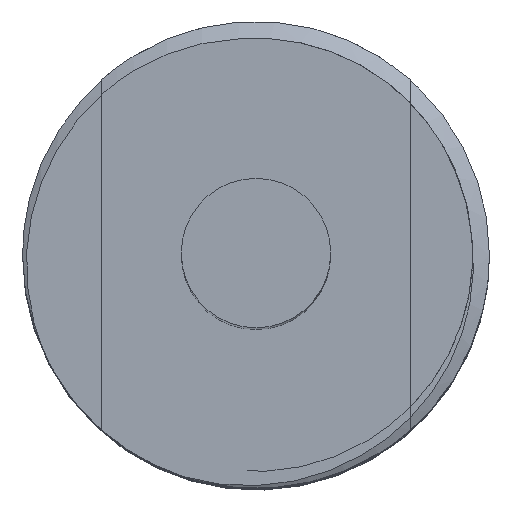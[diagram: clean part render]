
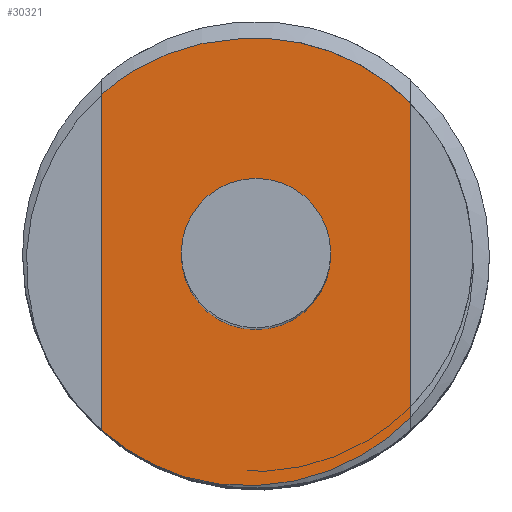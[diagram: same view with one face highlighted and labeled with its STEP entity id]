
A CAD part, top view. The second image highlights one B-rep face of the part: STEP entity #30321.
In plain terms, the highlighted planar face has unit normal (0, 0, 1).
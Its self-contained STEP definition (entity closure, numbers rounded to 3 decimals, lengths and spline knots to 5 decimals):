
#13092 = CARTESIAN_POINT ( 'NONE',  ( 0.075, 0., 1.1 ) ) ;
#22721 = CARTESIAN_POINT ( 'NONE',  ( -0.01772, 0.21674, 1.1 ) ) ;
#22722 = CARTESIAN_POINT ( 'NONE',  ( -0.155, 0.16088, 1.1 ) ) ;
#22736 = CARTESIAN_POINT ( 'NONE',  ( -0.155, -0.1758, 1.1 ) ) ;
#22798 = CARTESIAN_POINT ( 'NONE',  ( 0.155, -0.16325, 1.1 ) ) ;
#22928 = CARTESIAN_POINT ( 'NONE',  ( -0.155, 0.16088, 1.1 ) ) ;
#22929 = CARTESIAN_POINT ( 'NONE',  ( -0.14556, 0.16933, 1.1 ) ) ;
#22930 = CARTESIAN_POINT ( 'NONE',  ( -0.13542, 0.17693, 1.1 ) ) ;
#22931 = CARTESIAN_POINT ( 'NONE',  ( -0.11396, 0.19031, 1.1 ) ) ;
#22932 = CARTESIAN_POINT ( 'NONE',  ( -0.1028, 0.196, 1.1 ) ) ;
#22933 = CARTESIAN_POINT ( 'NONE',  ( -0.07965, 0.20542, 1.1 ) ) ;
#22934 = CARTESIAN_POINT ( 'NONE',  ( -0.06762, 0.20917, 1.1 ) ) ;
#22935 = CARTESIAN_POINT ( 'NONE',  ( -0.04289, 0.21457, 1.1 ) ) ;
#22936 = CARTESIAN_POINT ( 'NONE',  ( -0.03038, 0.21619, 1.1 ) ) ;
#22937 = CARTESIAN_POINT ( 'NONE',  ( -0.01772, 0.21674, 1.1 ) ) ;
#22939 = B_SPLINE_CURVE_WITH_KNOTS ( 'NONE', 3,
 ( #22937, #22936, #22935, #22934, #22933, #22932, #22931, #22930, #22929, #22928 ),
 .UNSPECIFIED., .F., .F.,
 ( 4, 2, 2, 2, 4 ),
 ( 0., 0.00096, 0.00192, 0.00288, 0.00385 ),
 .UNSPECIFIED. ) ;
#23107 = CARTESIAN_POINT ( 'NONE',  ( -0.075, 0., 1.1 ) ) ;
#23108 = DIRECTION ( 'NONE',  ( -1., 0., 0. ) ) ;
#23109 = DIRECTION ( 'NONE',  ( 0., 0., 1. ) ) ;
#23110 = CARTESIAN_POINT ( 'NONE',  ( 0., 0., 1.1 ) ) ;
#23111 = AXIS2_PLACEMENT_3D ( 'NONE', #23110, #23109, #23108 ) ;
#23112 = CIRCLE ( 'NONE', #23111, 0.075 ) ;
#24420 = CARTESIAN_POINT ( 'NONE',  ( -0.07286, -0.22276, 1.1 ) ) ;
#24421 = CARTESIAN_POINT ( 'NONE',  ( 0.155, 0.15253, 1.1 ) ) ;
#24423 = DIRECTION ( 'NONE',  ( -1., 0., 0. ) ) ;
#24424 = DIRECTION ( 'NONE',  ( 0., 0., -1. ) ) ;
#24425 = CARTESIAN_POINT ( 'NONE',  ( 0., 0., 1.1 ) ) ;
#24426 = AXIS2_PLACEMENT_3D ( 'NONE', #24425, #24424, #24423 ) ;
#24427 = CIRCLE ( 'NONE', #24426, 0.23438 ) ;
#24446 = CARTESIAN_POINT ( 'NONE',  ( -0.155, -0.24405, 1.1 ) ) ;
#24447 = PLANE ( 'NONE',  #24506 ) ;
#24448 = FACE_BOUND ( 'NONE', #30306, .T. ) ;
#24449 = FACE_OUTER_BOUND ( 'NONE', #30303, .T. ) ;
#24450 = DIRECTION ( 'NONE',  ( -1., 0., 0. ) ) ;
#24451 = DIRECTION ( 'NONE',  ( 0., 0., 1. ) ) ;
#24452 = CARTESIAN_POINT ( 'NONE',  ( 0., 0., 1.1 ) ) ;
#24453 = AXIS2_PLACEMENT_3D ( 'NONE', #24452, #24451, #24450 ) ;
#24454 = CIRCLE ( 'NONE', #24453, 0.075 ) ;
#24461 = DIRECTION ( 'NONE',  ( 0., 1., 0. ) ) ;
#24462 = CARTESIAN_POINT ( 'NONE',  ( 0.155, -0.16325, 1.1 ) ) ;
#24463 = CARTESIAN_POINT ( 'NONE',  ( 0.14774, -0.17067, 1.1 ) ) ;
#24464 = CARTESIAN_POINT ( 'NONE',  ( 0.14003, -0.17755, 1.1 ) ) ;
#24465 = CARTESIAN_POINT ( 'NONE',  ( 0.12371, -0.19021, 1.1 ) ) ;
#24466 = CARTESIAN_POINT ( 'NONE',  ( 0.11506, -0.19603, 1.1 ) ) ;
#24467 = CARTESIAN_POINT ( 'NONE',  ( 0.08832, -0.21149, 1.1 ) ) ;
#24468 = CARTESIAN_POINT ( 'NONE',  ( 0.06939, -0.21927, 1.1 ) ) ;
#24469 = CARTESIAN_POINT ( 'NONE',  ( 0.02929, -0.22969, 1.1 ) ) ;
#24470 = CARTESIAN_POINT ( 'NONE',  ( 0.00886, -0.23209, 1.1 ) ) ;
#24471 = CARTESIAN_POINT ( 'NONE',  ( -0.02193, -0.23164, 1.1 ) ) ;
#24472 = CARTESIAN_POINT ( 'NONE',  ( -0.0323, -0.23081, 1.1 ) ) ;
#24473 = CARTESIAN_POINT ( 'NONE',  ( -0.05277, -0.22779, 1.1 ) ) ;
#24474 = CARTESIAN_POINT ( 'NONE',  ( -0.06288, -0.22562, 1.1 ) ) ;
#24475 = CARTESIAN_POINT ( 'NONE',  ( -0.07286, -0.22276, 1.1 ) ) ;
#24476 = VECTOR ( 'NONE', #24461, 39.37008 ) ;
#24477 = CARTESIAN_POINT ( 'NONE',  ( -0.155, -0.24405, 1.1 ) ) ;
#24478 = LINE ( 'NONE', #24477, #24476 ) ;
#24479 = B_SPLINE_CURVE_WITH_KNOTS ( 'NONE', 3,
 ( #24475, #24474, #24473, #24472, #24471, #24470, #24469, #24468, #24467, #24466, #24465, #24464, #24463, #24462 ),
 .UNSPECIFIED., .F., .F.,
 ( 4, 2, 2, 2, 2, 2, 4 ),
 ( 0., 0.00079, 0.00158, 0.00315, 0.00473, 0.00551, 0.0063 ),
 .UNSPECIFIED. ) ;
#24482 = B_SPLINE_CURVE_WITH_KNOTS ( 'NONE', 3,
 ( #24533, #24532, #24531, #24530, #24529, #24528, #24527, #24526, #24525, #24524 ),
 .UNSPECIFIED., .F., .F.,
 ( 4, 2, 2, 2, 4 ),
 ( 0., 0.00121, 0.00242, 0.00364, 0.00485 ),
 .UNSPECIFIED. ) ;
#24504 = DIRECTION ( 'NONE',  ( -1., 0., 0. ) ) ;
#24505 = DIRECTION ( 'NONE',  ( 0., 0., -1. ) ) ;
#24506 = AXIS2_PLACEMENT_3D ( 'NONE', #24446, #24505, #24504 ) ;
#24524 = CARTESIAN_POINT ( 'NONE',  ( -0.01772, 0.21674, 1.1 ) ) ;
#24525 = CARTESIAN_POINT ( 'NONE',  ( -0.00185, 0.21803, 1.1 ) ) ;
#24526 = CARTESIAN_POINT ( 'NONE',  ( 0.01397, 0.21759, 1.1 ) ) ;
#24527 = CARTESIAN_POINT ( 'NONE',  ( 0.04549, 0.21324, 1.1 ) ) ;
#24528 = CARTESIAN_POINT ( 'NONE',  ( 0.06099, 0.20933, 1.1 ) ) ;
#24529 = CARTESIAN_POINT ( 'NONE',  ( 0.09076, 0.19825, 1.1 ) ) ;
#24530 = CARTESIAN_POINT ( 'NONE',  ( 0.10502, 0.19107, 1.1 ) ) ;
#24531 = CARTESIAN_POINT ( 'NONE',  ( 0.13146, 0.17394, 1.1 ) ) ;
#24532 = CARTESIAN_POINT ( 'NONE',  ( 0.14383, 0.16387, 1.1 ) ) ;
#24533 = CARTESIAN_POINT ( 'NONE',  ( 0.155, 0.15253, 1.1 ) ) ;
#24564 = DIRECTION ( 'NONE',  ( 0., 1., 0. ) ) ;
#24565 = VECTOR ( 'NONE', #24564, 39.37008 ) ;
#24566 = CARTESIAN_POINT ( 'NONE',  ( 0.155, -0.24405, 1.1 ) ) ;
#24567 = LINE ( 'NONE', #24566, #24565 ) ;
#30303 = EDGE_LOOP ( 'NONE', ( #30315, #32004, #30330, #32059, #31946, #30308 ) ) ;
#30306 = EDGE_LOOP ( 'NONE', ( #30307, #30320 ) ) ;
#30307 = ORIENTED_EDGE ( 'NONE', *, *, #30319, .F. ) ;
#30308 = ORIENTED_EDGE ( 'NONE', *, *, #30309, .F. ) ;
#30309 = EDGE_CURVE ( 'NONE', #30313, #31937, #24427, .T. ) ;
#30311 = VERTEX_POINT ( 'NONE', #24421 ) ;
#30313 = VERTEX_POINT ( 'NONE', #24420 ) ;
#30314 = EDGE_CURVE ( 'NONE', #30313, #32005, #24479, .T. ) ;
#30315 = ORIENTED_EDGE ( 'NONE', *, *, #30314, .T. ) ;
#30317 = EDGE_CURVE ( 'NONE', #31937, #31951, #24478, .T. ) ;
#30319 = EDGE_CURVE ( 'NONE', #32171, #30926, #24454, .T. ) ;
#30320 = ORIENTED_EDGE ( 'NONE', *, *, #32170, .F. ) ;
#30321 = ADVANCED_FACE ( 'NONE', ( #24449, #24448 ), #24447, .F. ) ;
#30330 = ORIENTED_EDGE ( 'NONE', *, *, #30331, .T. ) ;
#30331 = EDGE_CURVE ( 'NONE', #30311, #31952, #24482, .T. ) ;
#30342 = EDGE_CURVE ( 'NONE', #32005, #30311, #24567, .T. ) ;
#30926 = VERTEX_POINT ( 'NONE', #13092 ) ;
#31937 = VERTEX_POINT ( 'NONE', #22736 ) ;
#31946 = ORIENTED_EDGE ( 'NONE', *, *, #30317, .F. ) ;
#31951 = VERTEX_POINT ( 'NONE', #22722 ) ;
#31952 = VERTEX_POINT ( 'NONE', #22721 ) ;
#32004 = ORIENTED_EDGE ( 'NONE', *, *, #30342, .T. ) ;
#32005 = VERTEX_POINT ( 'NONE', #22798 ) ;
#32059 = ORIENTED_EDGE ( 'NONE', *, *, #32060, .T. ) ;
#32060 = EDGE_CURVE ( 'NONE', #31952, #31951, #22939, .T. ) ;
#32170 = EDGE_CURVE ( 'NONE', #30926, #32171, #23112, .T. ) ;
#32171 = VERTEX_POINT ( 'NONE', #23107 ) ;
